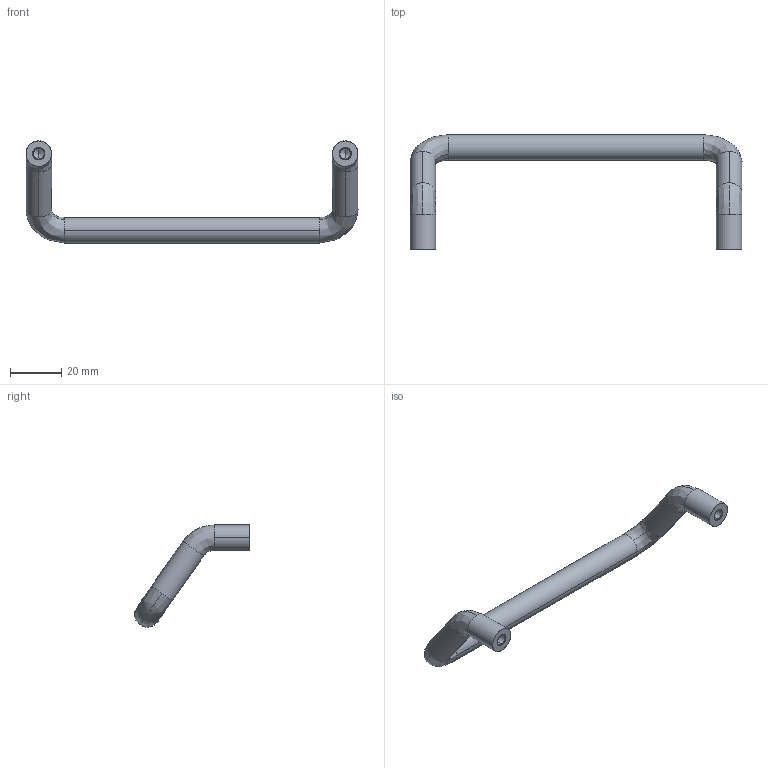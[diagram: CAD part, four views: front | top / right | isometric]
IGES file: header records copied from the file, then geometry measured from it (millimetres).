
Start section: SolidWorks IGES FILE using analytic representation for surfaces
Global section: file name: C:\Documents and Settings\lecoutey\Bureau\PX 392\PX 392.IGS; native system: SolidWorks 2004 by SolidWorks Corporation; preprocessor: Version 5.3; author: lecoutey; date: 050408.172938; units: millimetre
Bounding box: 130 x 45.01 x 39.99 mm (x, y, z)
Surface area: 7412.2 mm2 (no closed solid volume)
Topology: 0 solids, 0 shells, 32 faces, 272 edges, 268 vertices
Faces by surface type: revolution 22, bspline 10
